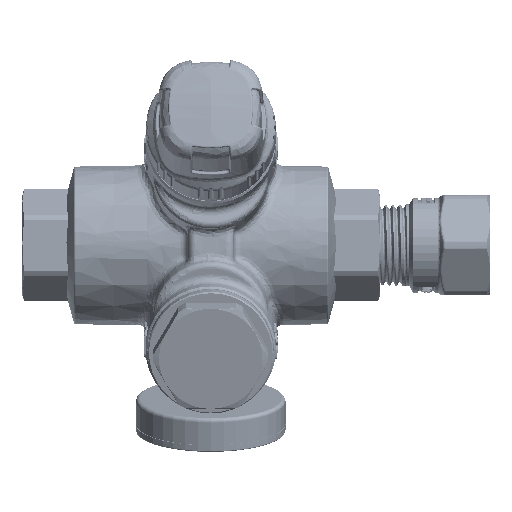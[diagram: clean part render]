
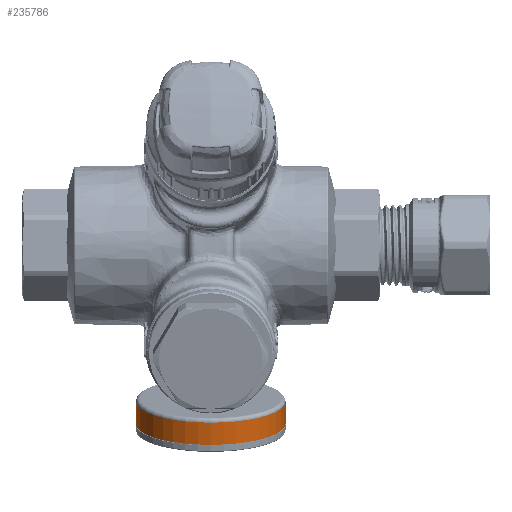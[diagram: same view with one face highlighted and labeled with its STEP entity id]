
A CAD part, top view. The second image highlights one B-rep face of the part: STEP entity #235786.
In plain terms, the highlighted cylindrical face has radius 19.5 mm (diameter 39 mm), a partial arc.
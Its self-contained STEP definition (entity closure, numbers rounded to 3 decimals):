
#195914 = TOROIDAL_SURFACE('',#195915,18.5,1.);
#195915 = AXIS2_PLACEMENT_3D('',#195916,#195917,#195918);
#195916 = CARTESIAN_POINT('',(0.,-40.736,29.925));
#195917 = DIRECTION('',(0.,-0.959,
    -0.282));
#195918 = DIRECTION('',(-1.,0.002,
    -0.006));
#235631 = PLANE('',#235632);
#235632 = AXIS2_PLACEMENT_3D('',#235633,#235634,#235635);
#235633 = CARTESIAN_POINT('',(0.,-46.492,28.231));
#235634 = DIRECTION('',(0.,-0.959,
    -0.282));
#235635 = DIRECTION('',(-1.,0.,0.));
#235722 = VERTEX_POINT('',#235723);
#235723 = CARTESIAN_POINT('',(19.5,-46.492,28.231));
#235724 = VERTEX_POINT('',#235725);
#235725 = CARTESIAN_POINT('',(-19.5,-46.492,28.231));
#235744 = CYLINDRICAL_SURFACE('',#235745,19.5);
#235745 = AXIS2_PLACEMENT_3D('',#235746,#235747,#235748);
#235746 = CARTESIAN_POINT('',(0.,-29.272,33.299));
#235747 = DIRECTION('',(0.,-0.959,
    -0.282));
#235748 = DIRECTION('',(-1.,0.,0.));
#235756 = EDGE_CURVE('',#235722,#235724,#235757,.T.);
#235757 = SURFACE_CURVE('',#235758,(#235763,#235770),.PCURVE_S1.);
#235758 = CIRCLE('',#235759,19.5);
#235759 = AXIS2_PLACEMENT_3D('',#235760,#235761,#235762);
#235760 = CARTESIAN_POINT('',(0.,-46.492,28.231));
#235761 = DIRECTION('',(0.,-0.959,
    -0.282));
#235762 = DIRECTION('',(1.,0.,0.));
#235763 = PCURVE('',#235631,#235764);
#235764 = DEFINITIONAL_REPRESENTATION('',(#235765),#235769);
#235765 = CIRCLE('',#235766,19.5);
#235766 = AXIS2_PLACEMENT_2D('',#235767,#235768);
#235767 = CARTESIAN_POINT('',(0.,0.));
#235768 = DIRECTION('',(-1.,0.));
#235769 = ( GEOMETRIC_REPRESENTATION_CONTEXT(2) 
PARAMETRIC_REPRESENTATION_CONTEXT() REPRESENTATION_CONTEXT('2D SPACE',''
  ) );
#235770 = PCURVE('',#235771,#235776);
#235771 = CYLINDRICAL_SURFACE('',#235772,19.5);
#235772 = AXIS2_PLACEMENT_3D('',#235773,#235774,#235775);
#235773 = CARTESIAN_POINT('',(0.,-29.272,33.299));
#235774 = DIRECTION('',(0.,-0.959,
    -0.282));
#235775 = DIRECTION('',(-1.,0.,0.));
#235776 = DEFINITIONAL_REPRESENTATION('',(#235777),#235781);
#235777 = LINE('',#235778,#235779);
#235778 = CARTESIAN_POINT('',(3.142,17.95));
#235779 = VECTOR('',#235780,1.);
#235780 = DIRECTION('',(1.,0.));
#235781 = ( GEOMETRIC_REPRESENTATION_CONTEXT(2) 
PARAMETRIC_REPRESENTATION_CONTEXT() REPRESENTATION_CONTEXT('2D SPACE',''
  ) );
#235786 = ADVANCED_FACE('',(#235787),#235771,.T.);
#235787 = FACE_BOUND('',#235788,.T.);
#235788 = EDGE_LOOP('',(#235789,#235856,#235857,#235880));
#235789 = ORIENTED_EDGE('',*,*,#235790,.F.);
#235790 = EDGE_CURVE('',#235724,#235791,#235793,.T.);
#235791 = VERTEX_POINT('',#235792);
#235792 = CARTESIAN_POINT('',(-19.5,-40.736,29.925));
#235793 = SURFACE_CURVE('',#235794,(#235798,#235827),.PCURVE_S1.);
#235794 = LINE('',#235795,#235796);
#235795 = CARTESIAN_POINT('',(-19.5,-46.492,28.231));
#235796 = VECTOR('',#235797,1.);
#235797 = DIRECTION('',(0.,0.959,0.282));
#235798 = PCURVE('',#235771,#235799);
#235799 = DEFINITIONAL_REPRESENTATION('',(#235800),#235826);
#235800 = B_SPLINE_CURVE_WITH_KNOTS('',3,(#235801,#235802,#235803,
    #235804,#235805,#235806,#235807,#235808,#235809,#235810,#235811,
    #235812,#235813,#235814,#235815,#235816,#235817,#235818,#235819,
    #235820,#235821,#235822,#235823,#235824,#235825),.UNSPECIFIED.,.F.,
  .F.,(4,1,1,1,1,1,1,1,1,1,1,1,1,1,1,1,1,1,1,1,1,1,4),(0.,0.273
    ,0.545,0.818,1.091,1.364,
    1.636,1.909,2.182,2.455,
    2.727,3.,3.273,3.545,3.818,
    4.091,4.364,4.636,4.909,
    5.182,5.455,5.727,6.),
  .QUASI_UNIFORM_KNOTS.);
#235801 = CARTESIAN_POINT('',(6.283,17.95));
#235802 = CARTESIAN_POINT('',(6.283,17.859));
#235803 = CARTESIAN_POINT('',(6.283,17.677));
#235804 = CARTESIAN_POINT('',(6.283,17.405));
#235805 = CARTESIAN_POINT('',(6.283,17.132));
#235806 = CARTESIAN_POINT('',(6.283,16.859));
#235807 = CARTESIAN_POINT('',(6.283,16.586));
#235808 = CARTESIAN_POINT('',(6.283,16.314));
#235809 = CARTESIAN_POINT('',(6.283,16.041));
#235810 = CARTESIAN_POINT('',(6.283,15.768));
#235811 = CARTESIAN_POINT('',(6.283,15.495));
#235812 = CARTESIAN_POINT('',(6.283,15.223));
#235813 = CARTESIAN_POINT('',(6.283,14.95));
#235814 = CARTESIAN_POINT('',(6.283,14.677));
#235815 = CARTESIAN_POINT('',(6.283,14.405));
#235816 = CARTESIAN_POINT('',(6.283,14.132));
#235817 = CARTESIAN_POINT('',(6.283,13.859));
#235818 = CARTESIAN_POINT('',(6.283,13.586));
#235819 = CARTESIAN_POINT('',(6.283,13.314));
#235820 = CARTESIAN_POINT('',(6.283,13.041));
#235821 = CARTESIAN_POINT('',(6.283,12.768));
#235822 = CARTESIAN_POINT('',(6.283,12.495));
#235823 = CARTESIAN_POINT('',(6.283,12.223));
#235824 = CARTESIAN_POINT('',(6.283,12.041));
#235825 = CARTESIAN_POINT('',(6.283,11.95));
#235826 = ( GEOMETRIC_REPRESENTATION_CONTEXT(2) 
PARAMETRIC_REPRESENTATION_CONTEXT() REPRESENTATION_CONTEXT('2D SPACE',''
  ) );
#235827 = PCURVE('',#235744,#235828);
#235828 = DEFINITIONAL_REPRESENTATION('',(#235829),#235855);
#235829 = B_SPLINE_CURVE_WITH_KNOTS('',3,(#235830,#235831,#235832,
    #235833,#235834,#235835,#235836,#235837,#235838,#235839,#235840,
    #235841,#235842,#235843,#235844,#235845,#235846,#235847,#235848,
    #235849,#235850,#235851,#235852,#235853,#235854),.UNSPECIFIED.,.F.,
  .F.,(4,1,1,1,1,1,1,1,1,1,1,1,1,1,1,1,1,1,1,1,1,1,4),(0.,0.273
    ,0.545,0.818,1.091,1.364,
    1.636,1.909,2.182,2.455,
    2.727,3.,3.273,3.545,3.818,
    4.091,4.364,4.636,4.909,
    5.182,5.455,5.727,6.),
  .QUASI_UNIFORM_KNOTS.);
#235830 = CARTESIAN_POINT('',(0.,17.95));
#235831 = CARTESIAN_POINT('',(0.,17.859));
#235832 = CARTESIAN_POINT('',(0.,17.677));
#235833 = CARTESIAN_POINT('',(0.,17.405));
#235834 = CARTESIAN_POINT('',(0.,17.132));
#235835 = CARTESIAN_POINT('',(0.,16.859));
#235836 = CARTESIAN_POINT('',(0.,16.586));
#235837 = CARTESIAN_POINT('',(0.,16.314));
#235838 = CARTESIAN_POINT('',(0.,16.041));
#235839 = CARTESIAN_POINT('',(0.,15.768));
#235840 = CARTESIAN_POINT('',(0.,15.495));
#235841 = CARTESIAN_POINT('',(0.,15.223));
#235842 = CARTESIAN_POINT('',(0.,14.95));
#235843 = CARTESIAN_POINT('',(0.,14.677));
#235844 = CARTESIAN_POINT('',(0.,14.405));
#235845 = CARTESIAN_POINT('',(0.,14.132));
#235846 = CARTESIAN_POINT('',(0.,13.859));
#235847 = CARTESIAN_POINT('',(0.,13.586));
#235848 = CARTESIAN_POINT('',(0.,13.314));
#235849 = CARTESIAN_POINT('',(0.,13.041));
#235850 = CARTESIAN_POINT('',(0.,12.768));
#235851 = CARTESIAN_POINT('',(0.,12.495));
#235852 = CARTESIAN_POINT('',(0.,12.223));
#235853 = CARTESIAN_POINT('',(0.,12.041));
#235854 = CARTESIAN_POINT('',(0.,11.95));
#235855 = ( GEOMETRIC_REPRESENTATION_CONTEXT(2) 
PARAMETRIC_REPRESENTATION_CONTEXT() REPRESENTATION_CONTEXT('2D SPACE',''
  ) );
#235856 = ORIENTED_EDGE('',*,*,#235756,.F.);
#235857 = ORIENTED_EDGE('',*,*,#235858,.T.);
#235858 = EDGE_CURVE('',#235722,#235859,#235861,.T.);
#235859 = VERTEX_POINT('',#235860);
#235860 = CARTESIAN_POINT('',(19.5,-40.736,29.925));
#235861 = SURFACE_CURVE('',#235862,(#235866,#235873),.PCURVE_S1.);
#235862 = LINE('',#235863,#235864);
#235863 = CARTESIAN_POINT('',(19.5,-46.492,28.231));
#235864 = VECTOR('',#235865,1.);
#235865 = DIRECTION('',(0.,0.959,0.282));
#235866 = PCURVE('',#235771,#235867);
#235867 = DEFINITIONAL_REPRESENTATION('',(#235868),#235872);
#235868 = LINE('',#235869,#235870);
#235869 = CARTESIAN_POINT('',(3.142,17.95));
#235870 = VECTOR('',#235871,1.);
#235871 = DIRECTION('',(0.,-1.));
#235872 = ( GEOMETRIC_REPRESENTATION_CONTEXT(2) 
PARAMETRIC_REPRESENTATION_CONTEXT() REPRESENTATION_CONTEXT('2D SPACE',''
  ) );
#235873 = PCURVE('',#235744,#235874);
#235874 = DEFINITIONAL_REPRESENTATION('',(#235875),#235879);
#235875 = LINE('',#235876,#235877);
#235876 = CARTESIAN_POINT('',(3.142,17.95));
#235877 = VECTOR('',#235878,1.);
#235878 = DIRECTION('',(0.,-1.));
#235879 = ( GEOMETRIC_REPRESENTATION_CONTEXT(2) 
PARAMETRIC_REPRESENTATION_CONTEXT() REPRESENTATION_CONTEXT('2D SPACE',''
  ) );
#235880 = ORIENTED_EDGE('',*,*,#235881,.F.);
#235881 = EDGE_CURVE('',#235791,#235859,#235882,.T.);
#235882 = SURFACE_CURVE('',#235883,(#235888,#235895),.PCURVE_S1.);
#235883 = CIRCLE('',#235884,19.5);
#235884 = AXIS2_PLACEMENT_3D('',#235885,#235886,#235887);
#235885 = CARTESIAN_POINT('',(0.,-40.736,29.925));
#235886 = DIRECTION('',(0.,0.959,0.282)
  );
#235887 = DIRECTION('',(-1.,0.,0.));
#235888 = PCURVE('',#235771,#235889);
#235889 = DEFINITIONAL_REPRESENTATION('',(#235890),#235894);
#235890 = LINE('',#235891,#235892);
#235891 = CARTESIAN_POINT('',(6.283,11.95));
#235892 = VECTOR('',#235893,1.);
#235893 = DIRECTION('',(-1.,0.));
#235894 = ( GEOMETRIC_REPRESENTATION_CONTEXT(2) 
PARAMETRIC_REPRESENTATION_CONTEXT() REPRESENTATION_CONTEXT('2D SPACE',''
  ) );
#235895 = PCURVE('',#195914,#235896);
#235896 = DEFINITIONAL_REPRESENTATION('',(#235897),#235901);
#235897 = LINE('',#235898,#235899);
#235898 = CARTESIAN_POINT('',(6.277,6.283));
#235899 = VECTOR('',#235900,1.);
#235900 = DIRECTION('',(-1.,0.));
#235901 = ( GEOMETRIC_REPRESENTATION_CONTEXT(2) 
PARAMETRIC_REPRESENTATION_CONTEXT() REPRESENTATION_CONTEXT('2D SPACE',''
  ) );
